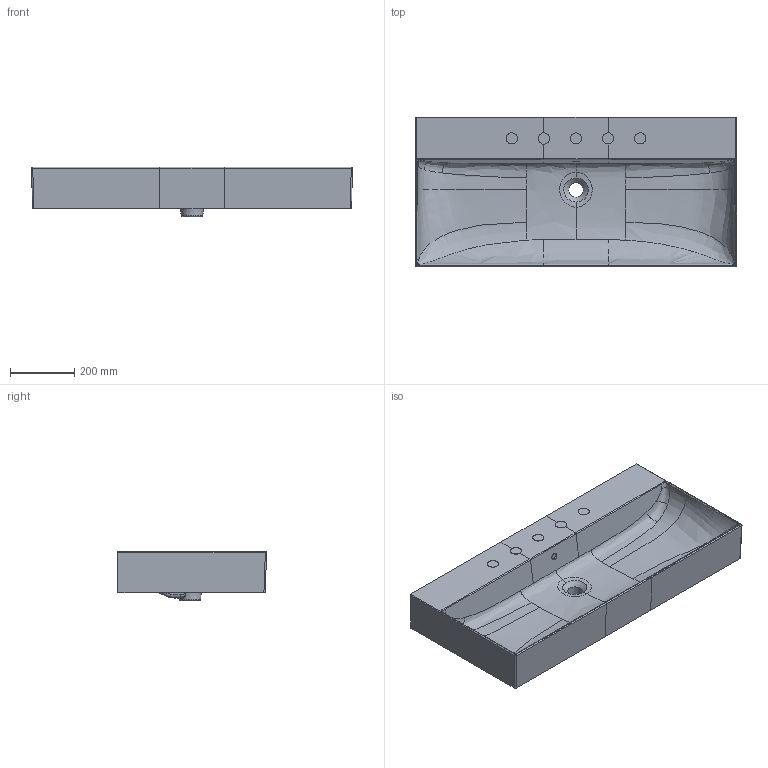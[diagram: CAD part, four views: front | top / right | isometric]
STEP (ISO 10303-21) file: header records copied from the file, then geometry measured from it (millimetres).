
FILE_DESCRIPTION(/* description */ (''),/* implementation_level */ '2;1');
FILE_NAME(/* name */ 'LAVABO_1000X46.5_PROTAP_20200910.stp',/* time_stamp */ '2020-09-11T08:15:48+02:00',/* author */ (''),/* organization */ (''),/* preprocessor_version */ 'ST-DEVELOPER v16.7',/* originating_system */ 'SIEMENS PLM Software NX 1847',/* authorisation */ '');
FILE_SCHEMA (('AUTOMOTIVE_DESIGN { 1 0 10303 214 3 1 1 1 }'));
Products named in the file (1): Dani45BCFD7Bhcwi
Bounding box: 999.84 x 464.83 x 155.02 mm (x, y, z)
Volume: 20431594.5 mm3; surface area: 1589016.8 mm2
Topology: 1 solids, 1 shells, 397 faces, 991 edges, 583 vertices
Faces by surface type: bspline 168, cylinder 105, plane 81, sphere 26, torus 10, extrusion 4, cone 3
Full cylindrical faces by diameter (mm): 10 x6, 22 x1, 35 x10, 46 x1
Entity records: 55967 total; most frequent: CARTESIAN_POINT 47992, ORIENTED_EDGE 1882, DIRECTION 1277, EDGE_CURVE 941, VERTEX_POINT 577, AXIS2_PLACEMENT_3D 513, EDGE_LOOP 434, B_SPLINE_CURVE_WITH_KNOTS 412
